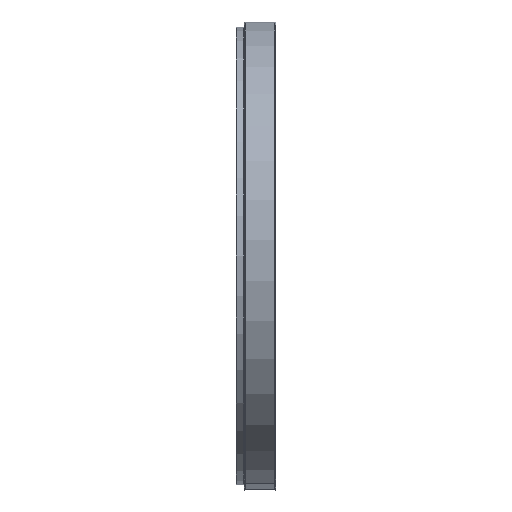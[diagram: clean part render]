
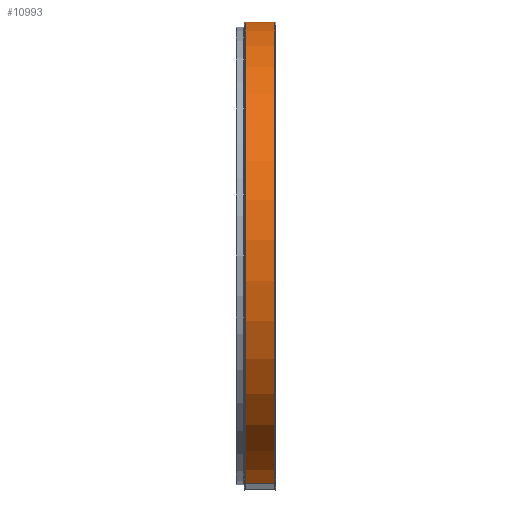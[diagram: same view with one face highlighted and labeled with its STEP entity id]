
A CAD part, front view. The second image highlights one B-rep face of the part: STEP entity #10993.
In plain terms, the highlighted cylindrical face has radius 88.08 mm (diameter 176.16 mm), a partial arc.
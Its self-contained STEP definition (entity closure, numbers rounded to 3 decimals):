
#199 = CARTESIAN_POINT ( 'NONE',  ( 3.5, -21.035, -85.531 ) ) ;
#865 = DIRECTION ( 'NONE',  ( 1., 0., 0. ) ) ;
#1628 = ORIENTED_EDGE ( 'NONE', *, *, #10956, .T. ) ;
#1791 = AXIS2_PLACEMENT_3D ( 'NONE', #19371, #8910, #6760 ) ;
#4186 = CARTESIAN_POINT ( 'NONE',  ( 14.5, 0., 0. ) ) ;
#5102 = ORIENTED_EDGE ( 'NONE', *, *, #17967, .T. ) ;
#6391 = CIRCLE ( 'NONE', #14983, 88.08 ) ;
#6760 = DIRECTION ( 'NONE',  ( 0., -0.239, -0.971 ) ) ;
#7435 = VECTOR ( 'NONE', #17487, 1000. ) ;
#8838 = LINE ( 'NONE', #199, #7435 ) ;
#8910 = DIRECTION ( 'NONE',  ( 1., 0., 0. ) ) ;
#9026 = CIRCLE ( 'NONE', #24862, 88.08 ) ;
#9522 = VERTEX_POINT ( 'NONE', #22762 ) ;
#9834 = EDGE_CURVE ( 'NONE', #20001, #14325, #18273, .T. ) ;
#10596 = FACE_OUTER_BOUND ( 'NONE', #12587, .T. ) ;
#10956 = EDGE_CURVE ( 'NONE', #9522, #14325, #9026, .T. ) ;
#10993 = ADVANCED_FACE ( 'NONE', ( #10596 ), #26202, .T. ) ;
#11764 = CARTESIAN_POINT ( 'NONE',  ( 3.5, -21.035, -85.531 ) ) ;
#12587 = EDGE_LOOP ( 'NONE', ( #23128, #15556, #5102, #1628 ) ) ;
#14318 = CARTESIAN_POINT ( 'NONE',  ( 3.5, 21.035, 85.531 ) ) ;
#14325 = VERTEX_POINT ( 'NONE', #22537 ) ;
#14359 = VERTEX_POINT ( 'NONE', #11764 ) ;
#14845 = DIRECTION ( 'NONE',  ( 0., 0.239, 0.971 ) ) ;
#14983 = AXIS2_PLACEMENT_3D ( 'NONE', #24683, #26374, #24396 ) ;
#15556 = ORIENTED_EDGE ( 'NONE', *, *, #25590, .F. ) ;
#17487 = DIRECTION ( 'NONE',  ( 1., 0., 0. ) ) ;
#17967 = EDGE_CURVE ( 'NONE', #14359, #9522, #8838, .T. ) ;
#18273 = LINE ( 'NONE', #20520, #24371 ) ;
#19371 = CARTESIAN_POINT ( 'NONE',  ( 3.5, 0., 0. ) ) ;
#20001 = VERTEX_POINT ( 'NONE', #14318 ) ;
#20520 = CARTESIAN_POINT ( 'NONE',  ( 3.5, 21.035, 85.531 ) ) ;
#22537 = CARTESIAN_POINT ( 'NONE',  ( 14.5, 21.035, 85.531 ) ) ;
#22762 = CARTESIAN_POINT ( 'NONE',  ( 14.5, -21.035, -85.531 ) ) ;
#23128 = ORIENTED_EDGE ( 'NONE', *, *, #9834, .F. ) ;
#24371 = VECTOR ( 'NONE', #865, 1000. ) ;
#24396 = DIRECTION ( 'NONE',  ( 0., 0.239, 0.971 ) ) ;
#24683 = CARTESIAN_POINT ( 'NONE',  ( 3.5, 0., 0. ) ) ;
#24862 = AXIS2_PLACEMENT_3D ( 'NONE', #4186, #27865, #14845 ) ;
#25590 = EDGE_CURVE ( 'NONE', #14359, #20001, #6391, .T. ) ;
#26202 = CYLINDRICAL_SURFACE ( 'NONE', #1791, 88.08 ) ;
#26374 = DIRECTION ( 'NONE',  ( -1., 0., 0. ) ) ;
#27865 = DIRECTION ( 'NONE',  ( -1., 0., 0. ) ) ;
